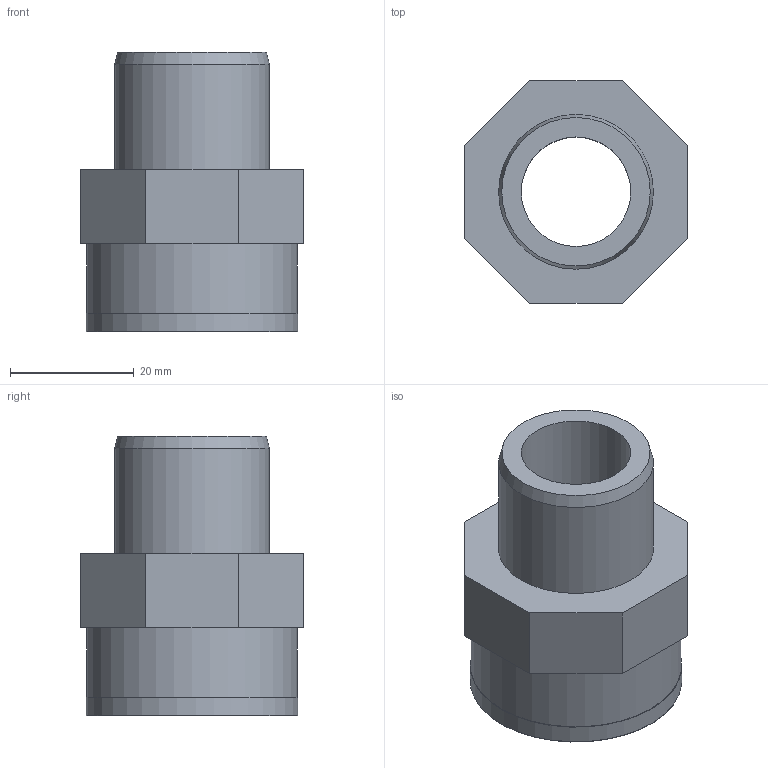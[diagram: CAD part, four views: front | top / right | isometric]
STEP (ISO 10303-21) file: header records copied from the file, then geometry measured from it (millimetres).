
FILE_DESCRIPTION(/* description */ (''),/* implementation_level */ '2;1');
FILE_NAME(/* name */ 'C:\Users\POLYPIPE\Desktop\DATASET INVENTOR\LIBRERIA EFFAST\RACCORDI 3DxWEB\RGR\3D_RGRAFR\3D_RGRAFR025C.stp',/* time_stamp */ '2018-01-19T17:30:24+01:00',/* author */ ('POLYPIPE'),/* organization */ (''),/* preprocessor_version */ 'ST-DEVELOPER v16.1',/* originating_system */ 'Autodesk Inventor 2016',/* authorisation */ '');
FILE_SCHEMA (('CONFIG_CONTROL_DESIGN'));
Length unit declared in the file: centimetre
Products named in the file (1): 3D_RGRAFR025C
Bounding box: 36 x 36 x 45.25 mm (x, y, z)
Volume: 18955 mm3; surface area: 9996.5 mm2
Topology: 1 solids, 1 shells, 29 faces, 64 edges, 42 vertices
Faces by surface type: plane 16, cylinder 6, bspline 5, cone 1, torus 1
Full cylindrical faces by diameter (mm): 17.7 x1, 24.117 x1, 25 x1, 28 x1, 34 x1, 34.2 x1
Entity records: 4418 total; most frequent: CARTESIAN_POINT 3768, DIRECTION 109, ORIENTED_EDGE 108, EDGE_CURVE 54, EDGE_LOOP 44, AXIS2_PLACEMENT_3D 41, VERTEX_POINT 40, STYLED_ITEM 30
